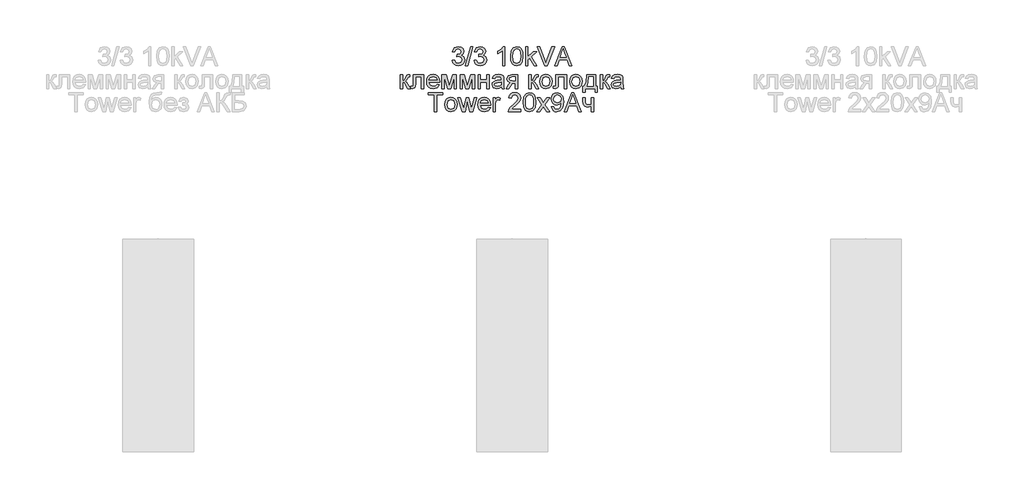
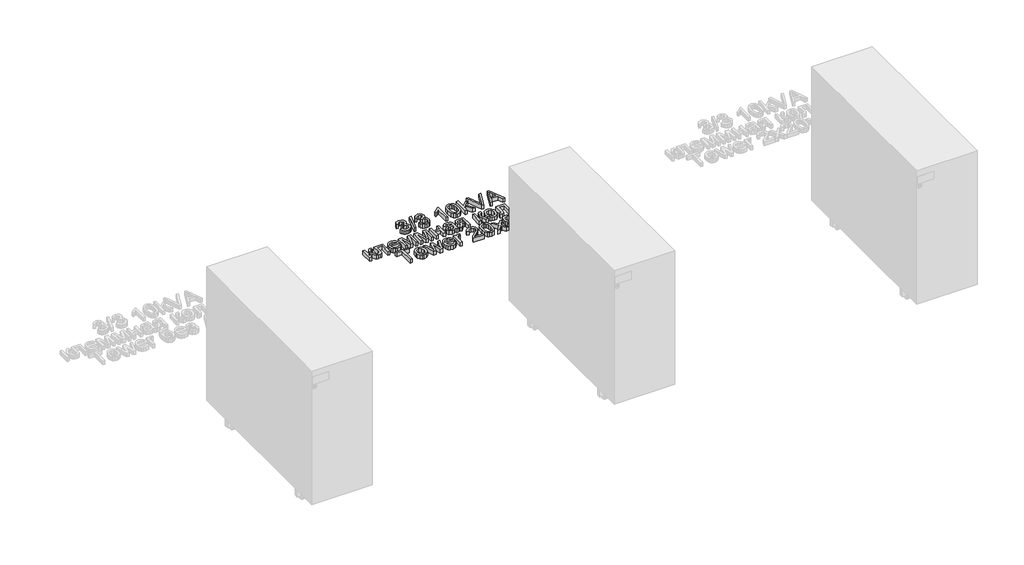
# One storey, part 23 of 74: 1 proxy.
"""IFC4 building model written with IfcOpenShell, lengths in millimetres."""

from ifc_helpers import new_model, si_unit, origin, origin_with_axes, place, context, project, spatial, polyline, outline, extrude, element, save

model = new_model("IFC4")

# Units and contexts
model_context = context("Model", 3, world=origin())
ifc_project = project(units=[si_unit("LENGTHUNIT", "METRE", prefix="MILLI")], contexts=[model_context])

# Site, building, storey
site = spatial("IfcSite", under=ifc_project)
building = spatial("IfcBuilding", under=site)
storey = spatial("IfcBuildingStorey", under=building, Name="Этаж 01", Elevation=0.0)

# Proxy
placement = place(None, origin())
element("IfcBuildingElementProxy", 1, Name="80 мм Arial", ObjectType="80 мм Arial", at=placement, inside=storey, context=model_context, shape_type="SweptSolid", body=[
    extrude(outline(polyline([(7098.3137414, -18752.4422861), (7108.3593724, -18751.1865822), (7113.9021278, -18761.7619633), (7124.2714949, -18764.9993249), (7136.475367, -18760.5455002), (7141.0076732, -18749.5188505), (7136.5146077, -18739.129863), (7125.0955506, -18735.0193948), (7118.0518367, -18736.1181357), (7119.1701979, -18726.0725047), (7120.7790685, -18726.1902269), (7132.1785053, -18723.3060321), (7137.2405615, -18714.4376235), (7133.5715518, -18706.5796641), (7124.114532, -18703.4698349), (7114.5397899, -18706.6090946), (7109.6150762, -18716.0268737), (7099.5694452, -18714.7711698), (7107.7903816, -18699.0160102), (7123.7613652, -18693.4242039), (7135.8769456, -18696.1808663), (7144.3529468, -18703.7150896), (7147.2861926, -18713.8490123), (7144.5000996, -18723.1098284), (7136.2595429, -18729.7611348), (7147.2077111, -18736.6282654), (7151.0533042, -18749.6954339), (7149.1305076, -18759.4860001), (7143.3621179, -18767.6676956), (7134.6555774, -18773.2006408), (7123.9183282, -18775.0449559), (7114.2062435, -18773.470421), (7106.2992332, -18768.7468161), (7100.8006236, -18761.5216138), (7098.3137414, -18752.4422861)])), origin_with_axes(), (0.0, 0.0, 1.0), 20.0),
    extrude(outline(polyline([(7154.8204158, -18773.789252), (7177.4230856, -18693.4242039), (7186.487698, -18693.4242039), (7163.8850282, -18773.789252), (7154.8204158, -18773.789252)])), origin_with_axes(), (0.0, 0.0, 1.0), 20.0),
    extrude(outline(polyline([(7191.2358282, -18752.4422861), (7201.2814593, -18751.1865822), (7206.8242147, -18761.7619633), (7217.1935818, -18764.9993249), (7229.3974539, -18760.5455002), (7233.9297601, -18749.5188505), (7229.4366946, -18739.129863), (7218.0176375, -18735.0193948), (7210.9739236, -18736.1181357), (7212.0922848, -18726.0725047), (7213.7011554, -18726.1902269), (7225.1005922, -18723.3060321), (7230.1626484, -18714.4376235), (7226.4936387, -18706.5796641), (7217.0366188, -18703.4698349), (7207.4618768, -18706.6090946), (7202.5371631, -18716.0268737), (7192.4915321, -18714.7711698), (7200.7124684, -18699.0160102), (7216.6834521, -18693.4242039), (7228.7990325, -18696.1808663), (7237.2750337, -18703.7150896), (7240.2082794, -18713.8490123), (7237.4221865, -18723.1098284), (7229.1816298, -18729.7611348), (7240.129798, -18736.6282654), (7243.9753911, -18749.6954339), (7242.0525945, -18759.4860001), (7236.2842048, -18767.6676956), (7227.5776643, -18773.2006408), (7216.8404151, -18775.0449559), (7207.1283304, -18773.470421), (7199.2213201, -18768.7468161), (7193.7227105, -18761.5216138), (7191.2358282, -18752.4422861)])), origin_with_axes(), (0.0, 0.0, 1.0), 20.0),
    extrude(outline(polyline([(7321.8290314, -18773.789252), (7311.7834004, -18773.789252), (7311.7834004, -18711.1610212), (7302.2675195, -18717.9398601), (7291.6921384, -18723.0117265), (7291.6921384, -18713.5154659), (7306.4172284, -18704.1173072), (7315.3543083, -18693.4242039), (7321.8290314, -18693.4242039), (7321.8290314, -18773.789252)])), origin_with_axes(), (0.0, 0.0, 1.0), 20.0),
    extrude(outline(polyline([(7345.6874051, -18734.2542003), (7348.6402712, -18711.1315906), (7357.410578, -18697.7995471), (7372.0571865, -18693.4242039), (7383.7901696, -18696.0140932), (7391.8933837, -18703.4796451), (7396.6022732, -18715.3695912), (7398.4269679, -18734.2542003), (7395.5035323, -18757.2787081), (7386.7626561, -18770.6401821), (7372.0571865, -18775.0449559), (7361.619148, -18773.1319695), (7353.6925173, -18767.3930104), (7347.6886832, -18753.800997), (7345.6874051, -18734.2542003)]), holes=[polyline([(7355.7330361, -18734.2345799), (7356.9102585, -18750.0363379), (7360.4419257, -18759.1818843), (7372.0571865, -18764.9993249), (7383.6724474, -18759.1622639), (7387.2041145, -18750.0118124), (7388.3813369, -18734.2345799), (7387.2433553, -18718.7884412), (7383.8294104, -18709.5717709), (7378.5809606, -18704.9953189), (7371.9394643, -18703.4698349), (7360.5988886, -18708.8458171), (7356.9494992, -18718.6363833), (7355.7330361, -18734.2345799)])]), origin_with_axes(), (0.0, 0.0, 1.0), 20.0),
    extrude(outline(polyline([(7409.7283028, -18773.789252), (7409.7283028, -18693.4242039), (7419.7739338, -18693.4242039), (7419.7739338, -18736.608645), (7442.2981221, -18714.7711698), (7456.1893463, -18714.7711698), (7433.3904728, -18736.8833303), (7457.4450501, -18773.789252), (7445.712067, -18773.789252), (7426.1897958, -18743.8681831), (7419.7739338, -18750.0878413), (7419.7739338, -18773.789252), (7409.7283028, -18773.789252)])), origin_with_axes(), (0.0, 0.0, 1.0), 20.0),
    extrude(outline(polyline([(7532.2182919, -18773.789252), (7564.2976019, -18693.4242039), (7572.8520846, -18693.4242039), (7604.9313946, -18773.789252), (7594.3167727, -18773.789252), (7585.1148177, -18748.6751745), (7552.0152484, -18748.6751745), (7542.8329138, -18773.789252), (7532.2182919, -18773.789252)]), holes=[polyline([(7555.7038785, -18738.6295435), (7581.445808, -18738.6295435), (7574.2058903, -18718.8718278), (7568.5748432, -18703.4698349), (7563.5716481, -18717.145235), (7555.7038785, -18738.6295435)])]), origin_with_axes(), (0.0, 0.0, 1.0), 20.0),
    extrude(outline(polyline([(7491.2313326, -18773.789252), (7459.2501245, -18693.4242039), (7470.0020889, -18693.4242039), (7491.4079159, -18751.3239249), (7495.7440184, -18764.3714729), (7500.0212597, -18751.3239249), (7521.4859479, -18693.4242039), (7532.2379123, -18693.4242039), (7501.6105099, -18773.789252), (7491.2313326, -18773.789252)])), origin_with_axes(), (0.0, 0.0, 1.0), 20.0),
    extrude(outline(polyline([(6933.1886815, -18812.3510241), (6978.3940211, -18812.3510241), (6978.3940211, -18871.3102452), (6968.3483901, -18871.3102452), (6968.3483901, -18822.3966551), (6943.2343126, -18822.3966551), (6943.2343126, -18850.5518905), (6942.5574097, -18863.5405774), (6938.839349, -18869.0244717), (6930.0494219, -18871.3691063), (6921.8873467, -18870.8589766), (6921.8873467, -18861.3234753), (6926.3804121, -18861.3234753), (6930.9225285, -18860.7054335), (6932.737413, -18858.7433962), (6933.1886815, -18849.9828996), (6933.1886815, -18812.3510241)])), origin_with_axes(), (0.0, 0.0, 1.0), 20.0),
    extrude(outline(polyline([(6879.1934148, -18812.3510241), (6889.2390459, -18812.3510241), (6889.2390459, -18837.4651016), (6895.9688338, -18835.6600273), (6901.4821587, -18825.1435073), (6906.0635158, -18816.0690848), (6910.1053126, -18813.1162186), (6917.4531423, -18812.3510241), (6919.3759389, -18812.3510241), (6919.3759389, -18822.4555162), (6916.6683274, -18822.3966551), (6911.7632341, -18823.4561553), (6908.3100485, -18830.068221), (6904.2584414, -18837.219847), (6898.5783434, -18840.7220836), (6904.9157239, -18844.6314429), (6911.1353822, -18852.8670945), (6921.8873467, -18871.3691063), (6910.4682895, -18871.3691063), (6899.9321492, -18853.259502), (6894.6346485, -18845.5977463), (6889.2390459, -18843.743621), (6889.2390459, -18871.3691063), (6879.1934148, -18871.3691063), (6879.1934148, -18812.3510241)])), origin_with_axes(), (0.0, 0.0, 1.0), 20.0),
    extrude(outline(polyline([(7034.7829733, -18853.789252), (7044.6324006, -18855.0449559), (7035.4206355, -18868.0140225), (7018.2626192, -18872.6248102), (7006.4756801, -18870.6357949), (6997.4061626, -18864.6687489), (6991.6230577, -18855.1111747), (6989.695356, -18842.3505745), (6991.642678, -18829.1607787), (6997.4846441, -18819.2966362), (7006.4315342, -18813.1456492), (7017.6936284, -18811.0953202), (7028.6050084, -18813.1407441), (7037.3238116, -18819.2770158), (7043.0406979, -18829.121538), (7044.9463266, -18842.2917134), (7044.8874655, -18844.9993249), (6999.740987, -18844.9993249), (7005.5191869, -18858.046873), (7018.4588229, -18862.5791792), (7028.3082502, -18860.4797992), (7034.7829733, -18853.789252)]), holes=[polyline([(6999.740987, -18834.9536939), (7034.9006956, -18834.9536939), (7030.8785191, -18825.8498408), (7017.6543876, -18821.1409512), (7005.2837424, -18824.8982527), (6999.740987, -18834.9536939)])]), origin_with_axes(), (0.0, 0.0, 1.0), 20.0),
    extrude(outline(polyline([(7054.9919576, -18812.3510241), (7072.2775063, -18812.3510241), (7085.5997396, -18859.5968825), (7099.9618527, -18812.3510241), (7116.5214476, -18812.3510241), (7116.5214476, -18871.3691063), (7106.4758166, -18871.3691063), (7106.4758166, -18823.8485627), (7092.035222, -18871.3691063), (7078.8503313, -18871.3691063), (7065.0375886, -18821.5725994), (7065.0375886, -18871.3691063), (7054.9919576, -18871.3691063), (7054.9919576, -18812.3510241)])), origin_with_axes(), (0.0, 0.0, 1.0), 20.0),
    extrude(outline(polyline([(7131.5898941, -18812.3510241), (7148.8754428, -18812.3510241), (7162.1976761, -18859.5968825), (7176.5597892, -18812.3510241), (7193.1193841, -18812.3510241), (7193.1193841, -18871.3691063), (7183.073753, -18871.3691063), (7183.073753, -18823.8485627), (7168.6331585, -18871.3691063), (7155.4482678, -18871.3691063), (7141.6355251, -18821.5725994), (7141.6355251, -18871.3691063), (7131.5898941, -18871.3691063), (7131.5898941, -18812.3510241)])), origin_with_axes(), (0.0, 0.0, 1.0), 20.0),
    extrude(outline(polyline([(7208.1878306, -18812.3510241), (7218.2334616, -18812.3510241), (7218.2334616, -18834.9536939), (7244.603243, -18834.9536939), (7244.603243, -18812.3510241), (7254.648874, -18812.3510241), (7254.648874, -18871.3691063), (7244.603243, -18871.3691063), (7244.603243, -18844.9993249), (7218.2334616, -18844.9993249), (7218.2334616, -18871.3691063), (7208.1878306, -18871.3691063), (7208.1878306, -18812.3510241)])), origin_with_axes(), (0.0, 0.0, 1.0), 20.0),
    extrude(outline(polyline([(7307.3884369, -18863.834883), (7297.6469216, -18870.6431525), (7286.885147, -18872.6248102), (7272.2973996, -18867.8570595), (7267.2059128, -18855.6728078), (7269.1287094, -18847.7265567), (7274.1809554, -18841.9581671), (7281.2148592, -18838.6619444), (7289.9066844, -18837.1511757), (7307.3295757, -18833.69799), (7307.3884369, -18831.4612675), (7304.6219643, -18824.0447664), (7293.5168331, -18821.1409512), (7283.3534798, -18823.073558), (7278.5072477, -18829.9308784), (7268.4616167, -18828.6751745), (7272.8075293, -18818.864988), (7281.5582157, -18813.1162186), (7294.8117777, -18811.0953202), (7306.9862192, -18812.8807742), (7313.86316, -18817.3640294), (7316.9435585, -18824.1821091), (7317.4340679, -18832.9720362), (7317.4340679, -18845.4702138), (7317.9441976, -18862.9225357), (7319.9454756, -18871.3691063), (7309.8998446, -18871.3691063), (7307.3884369, -18863.834883)]), holes=[polyline([(7307.3884369, -18843.743621), (7291.1820087, -18846.8240196), (7282.5392344, -18848.4525105), (7278.6249699, -18851.1012609), (7277.2515438, -18854.9664744), (7280.2436507, -18860.4013178), (7289.0237677, -18862.5791792), (7299.1871209, -18860.1756835), (7305.7403255, -18854.3582428), (7307.3295757, -18846.5885751), (7307.3884369, -18843.743621)])]), origin_with_axes(), (0.0, 0.0, 1.0), 20.0),
    extrude(outline(polyline([(7376.4521501, -18812.3510241), (7376.4521501, -18871.3691063), (7366.4065191, -18871.3691063), (7366.4065191, -18848.7664365), (7360.932435, -18848.7664365), (7353.4766932, -18850.0417608), (7346.47222, -18858.6158638), (7338.4671078, -18871.3691063), (7326.8518469, -18871.3691063), (7336.9367187, -18855.2411596), (7345.4912014, -18846.8828807), (7333.797459, -18840.7809447), (7329.9911066, -18829.4011283), (7335.1905055, -18817.079534), (7350.2393317, -18812.3510241), (7376.4521501, -18812.3510241)]), holes=[polyline([(7366.4065191, -18822.3966551), (7353.1627672, -18822.3966551), (7342.4402334, -18824.7216693), (7340.0367377, -18830.1663228), (7343.578215, -18836.6508561), (7356.1254436, -18838.7208055), (7366.4065191, -18838.7208055), (7366.4065191, -18822.3966551)])]), origin_with_axes(), (0.0, 0.0, 1.0), 20.0),
    extrude(outline(polyline([(7422.9131935, -18812.3510241), (7432.9588245, -18812.3510241), (7432.9588245, -18837.4651016), (7439.6886125, -18835.6600273), (7445.2019373, -18825.1435073), (7449.7832945, -18816.0690848), (7453.8250913, -18813.1162186), (7461.172921, -18812.3510241), (7463.0957176, -18812.3510241), (7463.0957176, -18822.4555162), (7460.3881061, -18822.3966551), (7455.4830128, -18823.4561553), (7452.0298272, -18830.068221), (7447.9782201, -18837.219847), (7442.2981221, -18840.7220836), (7448.6355026, -18844.6314429), (7454.8551609, -18852.8670945), (7465.6071253, -18871.3691063), (7454.1880682, -18871.3691063), (7443.6519279, -18853.259502), (7438.3544271, -18845.5977463), (7432.9588245, -18843.743621), (7432.9588245, -18871.3691063), (7422.9131935, -18871.3691063), (7422.9131935, -18812.3510241)])), origin_with_axes(), (0.0, 0.0, 1.0), 20.0),
    extrude(outline(polyline([(7469.374237, -18841.8600652), (7471.5471933, -18827.6303896), (7478.0660622, -18817.6289044), (7486.1202254, -18812.7287163), (7495.7636388, -18811.0953202), (7506.3169469, -18813.0843355), (7514.7463497, -18819.0513815), (7520.2719373, -18828.5255691), (7522.1137998, -18841.0360095), (7518.8568179, -18858.9101694), (7509.3703675, -18869.0244717), (7495.7636388, -18872.6248102), (7485.0827982, -18870.6431525), (7476.6632056, -18864.6981795), (7471.1964791, -18855.0253355), (7469.374237, -18841.8600652)]), holes=[polyline([(7479.419868, -18841.8404448), (7484.0698964, -18857.4092109), (7495.7636388, -18862.5791792), (7507.4181404, -18857.3797803), (7512.0681688, -18841.5265189), (7507.3887098, -18826.3109195), (7495.7636388, -18821.1409512), (7484.0698964, -18826.2912992), (7479.419868, -18841.8404448)])]), origin_with_axes(), (0.0, 0.0, 1.0), 20.0),
    extrude(outline(polyline([(7538.4379502, -18812.3510241), (7583.6432898, -18812.3510241), (7583.6432898, -18871.3102452), (7573.5976588, -18871.3102452), (7573.5976588, -18822.3966551), (7548.4835812, -18822.3966551), (7548.4835812, -18850.5518905), (7547.8066783, -18863.5405774), (7544.0886176, -18869.0244717), (7535.2986905, -18871.3691063), (7527.1366153, -18870.8589766), (7527.1366153, -18861.3234753), (7531.6296807, -18861.3234753), (7536.1717971, -18860.7054335), (7537.9866816, -18858.7433962), (7538.4379502, -18849.9828996), (7538.4379502, -18812.3510241)])), origin_with_axes(), (0.0, 0.0, 1.0), 20.0),
    extrude(outline(polyline([(7596.2003285, -18841.8600652), (7598.3732849, -18827.6303896), (7604.8921538, -18817.6289044), (7612.946317, -18812.7287163), (7622.5897303, -18811.0953202), (7633.1430385, -18813.0843355), (7641.5724413, -18819.0513815), (7647.0980288, -18828.5255691), (7648.9398914, -18841.0360095), (7645.6829094, -18858.9101694), (7636.1964591, -18869.0244717), (7622.5897303, -18872.6248102), (7611.9088897, -18870.6431525), (7603.4892971, -18864.6981795), (7598.0225707, -18855.0253355), (7596.2003285, -18841.8600652)]), holes=[polyline([(7606.2459596, -18841.8404448), (7610.895988, -18857.4092109), (7622.5897303, -18862.5791792), (7634.2442319, -18857.3797803), (7638.8942603, -18841.5265189), (7634.2148014, -18826.3109195), (7622.5897303, -18821.1409512), (7610.895988, -18826.2912992), (7606.2459596, -18841.8404448)])]), origin_with_axes(), (0.0, 0.0, 1.0), 20.0),
    extrude(outline(polyline([(7669.0311534, -18812.3510241), (7706.7022697, -18812.3510241), (7706.7022697, -18861.3234753), (7714.236493, -18861.3234753), (7714.236493, -18887.6932567), (7704.1908619, -18887.6932567), (7704.1908619, -18871.3691063), (7662.752634, -18871.3691063), (7662.752634, -18887.6932567), (7652.707003, -18887.6932567), (7652.707003, -18861.3234753), (7658.9855224, -18861.3234753), (7666.7453799, -18842.164181), (7669.0311534, -18812.3510241)]), holes=[polyline([(7677.8210805, -18822.3966551), (7675.4666358, -18845.2838203), (7670.2868573, -18861.3234753), (7696.6566387, -18861.3234753), (7696.6566387, -18822.3966551), (7677.8210805, -18822.3966551)])]), origin_with_axes(), (0.0, 0.0, 1.0), 20.0),
    extrude(outline(polyline([(7725.5378279, -18812.3510241), (7735.5834589, -18812.3510241), (7735.5834589, -18837.4651016), (7742.3132468, -18835.6600273), (7747.8265717, -18825.1435073), (7752.4079288, -18816.0690848), (7756.4497256, -18813.1162186), (7763.7975554, -18812.3510241), (7765.7203519, -18812.3510241), (7765.7203519, -18822.4555162), (7763.0127404, -18822.3966551), (7758.1076472, -18823.4561553), (7754.6544615, -18830.068221), (7750.6028545, -18837.219847), (7744.9227565, -18840.7220836), (7751.260137, -18844.6314429), (7757.4797952, -18852.8670945), (7768.2317597, -18871.3691063), (7756.8127025, -18871.3691063), (7746.2765622, -18853.259502), (7740.9790615, -18845.5977463), (7735.5834589, -18843.743621), (7735.5834589, -18871.3691063), (7725.5378279, -18871.3691063), (7725.5378279, -18812.3510241)])), origin_with_axes(), (0.0, 0.0, 1.0), 20.0),
    extrude(outline(polyline([(7812.1813954, -18863.834883), (7802.4398801, -18870.6431525), (7791.6781055, -18872.6248102), (7777.0903581, -18867.8570595), (7771.9988713, -18855.6728078), (7773.9216679, -18847.7265567), (7778.9739139, -18841.9581671), (7786.0078177, -18838.6619444), (7794.6996429, -18837.1511757), (7812.1225342, -18833.69799), (7812.1813954, -18831.4612675), (7809.4149228, -18824.0447664), (7798.3097916, -18821.1409512), (7788.1464383, -18823.073558), (7783.3002062, -18829.9308784), (7773.2545752, -18828.6751745), (7777.6004878, -18818.864988), (7786.3511742, -18813.1162186), (7799.6047362, -18811.0953202), (7811.7791777, -18812.8807742), (7818.6561185, -18817.3640294), (7821.736517, -18824.1821091), (7822.2270264, -18832.9720362), (7822.2270264, -18845.4702138), (7822.7371561, -18862.9225357), (7824.7384341, -18871.3691063), (7814.6928031, -18871.3691063), (7812.1813954, -18863.834883)]), holes=[polyline([(7812.1813954, -18843.743621), (7795.9749672, -18846.8240196), (7787.3321929, -18848.4525105), (7783.4179284, -18851.1012609), (7782.0445023, -18854.9664744), (7785.0366092, -18860.4013178), (7793.8167262, -18862.5791792), (7803.9800794, -18860.1756835), (7810.533284, -18854.3582428), (7812.1225342, -18846.5885751), (7812.1813954, -18843.743621)])]), origin_with_axes(), (0.0, 0.0, 1.0), 20.0),
    extrude(outline(polyline([(7022.9715087, -18968.9489606), (7022.9715087, -18898.6295435), (6996.6017273, -18898.6295435), (6996.6017273, -18888.5839125), (7059.3869212, -18888.5839125), (7059.3869212, -18898.6295435), (7033.0171398, -18898.6295435), (7033.0171398, -18968.9489606), (7022.9715087, -18968.9489606)])), origin_with_axes(), (0.0, 0.0, 1.0), 20.0),
    extrude(outline(polyline([(7066.9211444, -18939.4399195), (7069.0941008, -18925.2102439), (7075.6129697, -18915.2087587), (7083.6671329, -18910.3085705), (7093.3105462, -18908.6751745), (7103.8638544, -18910.6641898), (7112.2932572, -18916.6312358), (7117.8188447, -18926.1054234), (7119.6607073, -18938.6158638), (7116.4037253, -18956.4900237), (7106.917275, -18966.604326), (7093.3105462, -18970.2046645), (7082.6297056, -18968.2230068), (7074.210113, -18962.2780337), (7068.7433866, -18952.6051898), (7066.9211444, -18939.4399195)]), holes=[polyline([(7076.9667754, -18939.4202991), (7081.6168039, -18954.9890651), (7093.3105462, -18960.1590334), (7104.9650478, -18954.9596346), (7109.6150762, -18939.1063731), (7104.9356173, -18923.8907738), (7093.3105462, -18918.7208055), (7081.6168039, -18923.8711534), (7076.9667754, -18939.4202991)])]), origin_with_axes(), (0.0, 0.0, 1.0), 20.0),
    extrude(outline(polyline([(7140.7526083, -18968.9489606), (7122.799967, -18909.9308784), (7133.2380054, -18909.9308784), (7143.4209791, -18944.3646331), (7146.4621369, -18956.666607), (7148.9539243, -18944.8159017), (7157.0571383, -18909.9308784), (7169.0255659, -18909.9308784), (7177.0895393, -18944.7177998), (7179.3066414, -18955.4501439), (7182.4851419, -18944.1291886), (7192.6877359, -18909.9308784), (7203.1650151, -18909.9308784), (7185.0750311, -18968.9489606), (7172.9300202, -18968.9489606), (7165.2192135, -18934.3386225), (7162.982491, -18923.5474173), (7153.0349619, -18968.9489606), (7140.7526083, -18968.9489606)])), origin_with_axes(), (0.0, 0.0, 1.0), 20.0),
    extrude(outline(polyline([(7251.3918921, -18951.3691063), (7261.2413194, -18952.6248102), (7252.0295542, -18965.5938768), (7234.871538, -18970.2046645), (7223.0845988, -18968.2156491), (7214.0150814, -18962.2486032), (7208.2319764, -18952.6910289), (7206.3042748, -18939.9304288), (7208.2515968, -18926.740633), (7214.0935629, -18916.8764904), (7223.040453, -18910.7255035), (7234.3025471, -18908.6751745), (7245.2139271, -18910.7205984), (7253.9327304, -18916.8568701), (7259.6496166, -18926.7013923), (7261.5552453, -18939.8715677), (7261.4963842, -18942.5791792), (7216.3499058, -18942.5791792), (7222.1281057, -18955.6267273), (7235.0677417, -18960.1590334), (7244.917169, -18958.0596535), (7251.3918921, -18951.3691063)]), holes=[polyline([(7216.3499058, -18932.5335481), (7251.5096143, -18932.5335481), (7247.4874379, -18923.429695), (7234.2633064, -18918.7208055), (7221.8926612, -18922.4781069), (7216.3499058, -18932.5335481)])]), origin_with_axes(), (0.0, 0.0, 1.0), 20.0),
    extrude(outline(polyline([(7271.6008764, -18968.9489606), (7271.6008764, -18909.9308784), (7280.3908035, -18909.9308784), (7280.3908035, -18918.6619444), (7286.6300821, -18910.6175914), (7292.9086015, -18908.6751745), (7302.9934733, -18911.7751934), (7299.6383895, -18920.7809447), (7292.5750552, -18918.7208055), (7286.8949572, -18920.7024632), (7283.2749983, -18926.1961676), (7281.6465074, -18937.9291507), (7281.6465074, -18968.9489606), (7271.6008764, -18968.9489606)])), origin_with_axes(), (0.0, 0.0, 1.0), 20.0),
    extrude(outline(polyline([(7389.6370408, -18958.9033296), (7389.6370408, -18968.9489606), (7336.897478, -18968.9489606), (7337.9765985, -18962.0229689), (7344.0785345, -18951.3592961), (7356.6551936, -18939.7146047), (7373.9996034, -18922.9784265), (7378.3357059, -18911.5986101), (7374.2448581, -18902.3868449), (7363.561565, -18898.6295435), (7352.4270033, -18902.2985532), (7348.1988129, -18912.4422861), (7338.1531818, -18911.1865822), (7340.5885606, -18901.4695925), (7345.8541783, -18894.3719225), (7353.6753495, -18890.030915), (7363.7773891, -18888.5839125), (7373.9530051, -18890.1927831), (7381.759461, -18895.0193948), (7386.7258679, -18902.2298819), (7388.3813369, -18910.9903785), (7386.595883, -18920.5160696), (7380.6607201, -18930.3654969), (7366.2691765, -18944.1291886), (7354.7127767, -18953.7922224), (7350.1804705, -18958.9033296), (7389.6370408, -18958.9033296)])), origin_with_axes(), (0.0, 0.0, 1.0), 20.0),
    extrude(outline(polyline([(7399.6826718, -18929.4139088), (7402.635538, -18906.2912992), (7411.4058447, -18892.9592557), (7426.0524532, -18888.5839125), (7437.7854363, -18891.1738017), (7445.8886504, -18898.6393537), (7450.5975399, -18910.5292997), (7452.4222346, -18929.4139088), (7449.498799, -18952.4384166), (7440.7579228, -18965.7998907), (7426.0524532, -18970.2046645), (7415.6144147, -18968.2916781), (7407.687784, -18962.552719), (7401.6839499, -18948.9607055), (7399.6826718, -18929.4139088)]), holes=[polyline([(7409.7283028, -18929.3942885), (7410.9055252, -18945.1960464), (7414.4371924, -18954.3415928), (7426.0524532, -18960.1590334), (7437.6677141, -18954.3219724), (7441.1993812, -18945.171521), (7442.3766036, -18929.3942885), (7441.238622, -18913.9481498), (7437.8246771, -18904.7314795), (7432.5762273, -18900.1550275), (7425.934731, -18898.6295435), (7414.5941553, -18904.0055257), (7410.944766, -18913.7960919), (7409.7283028, -18929.3942885)])]), origin_with_axes(), (0.0, 0.0, 1.0), 20.0),
    extrude(outline(polyline([(7457.4450501, -18968.9489606), (7478.9097383, -18939.2829565), (7458.700754, -18909.9308784), (7470.7869038, -18909.9308784), (7480.5382293, -18924.057547), (7485.0901558, -18930.7284738), (7489.0338508, -18925.2740101), (7500.138982, -18909.9308784), (7512.2251318, -18909.9308784), (7490.9958881, -18939.2829565), (7511.4403168, -18968.9489606), (7499.354167, -18968.9489606), (7487.0521931, -18951.1140415), (7484.7958502, -18947.8570595), (7469.5312, -18968.9489606), (7457.4450501, -18968.9489606)])), origin_with_axes(), (0.0, 0.0, 1.0), 20.0),
    extrude(outline(polyline([(7518.9745401, -18948.8576985), (7529.0201711, -18947.6019947), (7533.5328569, -18957.1865469), (7542.0873396, -18960.1590334), (7550.2199842, -18958.2460471), (7555.7333091, -18953.1349399), (7559.0197216, -18944.4038739), (7560.4716292, -18932.7493723), (7560.412768, -18930.7873349), (7552.3782253, -18938.4000397), (7541.3613858, -18941.3234753), (7532.2011241, -18939.5380213), (7524.5761566, -18934.1816595), (7519.4331663, -18925.9067671), (7517.7188362, -18915.3657217), (7519.5165529, -18904.4764147), (7524.909703, -18895.9415524), (7533.0104645, -18890.4233224), (7542.9310156, -18888.5839125), (7557.2440778, -18892.7826723), (7567.0935051, -18904.7510999), (7570.4583991, -18927.2360474), (7567.1033153, -18951.6339813), (7557.1263556, -18965.4565342), (7541.6164506, -18970.2046645), (7533.0276323, -18968.8042603), (7526.175217, -18964.6030479), (7518.9745401, -18948.8576985)]), holes=[polyline([(7560.412768, -18915.1302772), (7556.0766656, -18903.0833682), (7544.5595066, -18898.6295435), (7532.4733568, -18903.4267247), (7527.7644672, -18915.856231), (7532.2182919, -18926.9907928), (7544.2848214, -18931.2778443), (7555.8706517, -18926.9907928), (7560.412768, -18915.1302772)])]), origin_with_axes(), (0.0, 0.0, 1.0), 20.0),
    extrude(outline(polyline([(7573.6565199, -18968.9489606), (7605.7358299, -18888.5839125), (7614.2903125, -18888.5839125), (7646.3696225, -18968.9489606), (7635.7550007, -18968.9489606), (7626.5530457, -18943.834883), (7593.4534763, -18943.834883), (7584.2711417, -18968.9489606), (7573.6565199, -18968.9489606)]), holes=[polyline([(7597.1421064, -18933.789252), (7622.8840359, -18933.789252), (7615.6441183, -18914.0315363), (7610.0130712, -18898.6295435), (7605.009876, -18912.3049435), (7597.1421064, -18933.789252)])]), origin_with_axes(), (0.0, 0.0, 1.0), 20.0),
    extrude(outline(polyline([(7652.0791511, -18909.9308784), (7662.1247821, -18909.9308784), (7662.1247821, -18921.2518336), (7662.9390276, -18931.8664555), (7666.853292, -18937.6152248), (7674.6229597, -18940.0677714), (7688.4945635, -18937.0266136), (7688.4945635, -18909.9308784), (7698.5401945, -18909.9308784), (7698.5401945, -18968.9489606), (7688.4945635, -18968.9489606), (7688.4945635, -18946.6602168), (7671.9349686, -18950.1134024), (7660.545342, -18946.513064), (7653.8449846, -18937.6937063), (7652.0791511, -18926.215788), (7652.0791511, -18909.9308784)])), origin_with_axes(), (0.0, 0.0, 1.0), 20.0),
])

save(model, "model.ifc")
